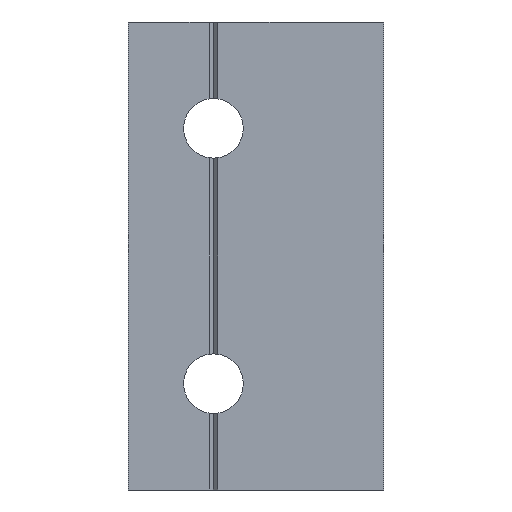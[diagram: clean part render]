
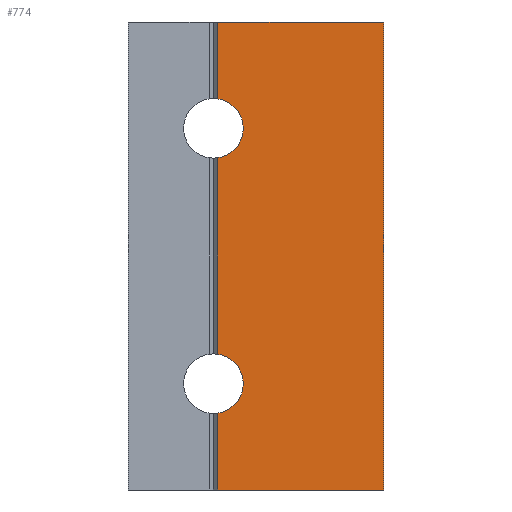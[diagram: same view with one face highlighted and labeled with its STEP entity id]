
A CAD part, left-side view. The second image highlights one B-rep face of the part: STEP entity #774.
In plain terms, the highlighted planar face has unit normal (-1, 0, 0).
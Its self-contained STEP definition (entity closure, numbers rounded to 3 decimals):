
#187 = EDGE_LOOP ( 'NONE', ( #331, #281, #345, #338, #300, #302, #307, #299, #315, #342 ) ) ;
#281 = ORIENTED_EDGE ( 'NONE', *, *, #1011, .F. ) ;
#299 = ORIENTED_EDGE ( 'NONE', *, *, #844, .F. ) ;
#300 = ORIENTED_EDGE ( 'NONE', *, *, #926, .T. ) ;
#302 = ORIENTED_EDGE ( 'NONE', *, *, #972, .F. ) ;
#307 = ORIENTED_EDGE ( 'NONE', *, *, #950, .F. ) ;
#315 = ORIENTED_EDGE ( 'NONE', *, *, #975, .F. ) ;
#321 = VERTEX_POINT ( 'NONE', #1240 ) ;
#331 = ORIENTED_EDGE ( 'NONE', *, *, #1038, .F. ) ;
#338 = ORIENTED_EDGE ( 'NONE', *, *, #994, .F. ) ;
#342 = ORIENTED_EDGE ( 'NONE', *, *, #853, .F. ) ;
#345 = ORIENTED_EDGE ( 'NONE', *, *, #945, .F. ) ;
#393 = CIRCLE ( 'NONE', #1018, 3.5 ) ;
#419 = VECTOR ( 'NONE', #1315, 1000. ) ;
#442 = VECTOR ( 'NONE', #1401, 1000. ) ;
#459 = VECTOR ( 'NONE', #1537, 1000. ) ;
#461 = FACE_OUTER_BOUND ( 'NONE', #187, .T. ) ;
#478 = CIRCLE ( 'NONE', #1029, 3.5 ) ;
#489 = LINE ( 'NONE', #1275, #490 ) ;
#490 = VECTOR ( 'NONE', #1178, 1000. ) ;
#516 = LINE ( 'NONE', #1318, #419 ) ;
#526 = CIRCLE ( 'NONE', #1026, 3.5 ) ;
#532 = LINE ( 'NONE', #1565, #580 ) ;
#549 = VECTOR ( 'NONE', #1042, 1000. ) ;
#559 = LINE ( 'NONE', #1215, #459 ) ;
#566 = LINE ( 'NONE', #1327, #549 ) ;
#573 = CIRCLE ( 'NONE', #822, 3.5 ) ;
#580 = VECTOR ( 'NONE', #1577, 1000. ) ;
#594 = LINE ( 'NONE', #1400, #442 ) ;
#618 = VERTEX_POINT ( 'NONE', #1683 ) ;
#633 = VERTEX_POINT ( 'NONE', #1538 ) ;
#656 = VERTEX_POINT ( 'NONE', #1288 ) ;
#658 = VERTEX_POINT ( 'NONE', #1353 ) ;
#665 = VERTEX_POINT ( 'NONE', #1298 ) ;
#687 = VERTEX_POINT ( 'NONE', #1492 ) ;
#700 = VERTEX_POINT ( 'NONE', #1430 ) ;
#703 = VERTEX_POINT ( 'NONE', #1432 ) ;
#709 = VERTEX_POINT ( 'NONE', #1463 ) ;
#774 = ADVANCED_FACE ( 'NONE', ( #461 ), #1529, .F. ) ;
#822 = AXIS2_PLACEMENT_3D ( 'NONE', #1132, #1615, #1307 ) ;
#844 = EDGE_CURVE ( 'NONE', #658, #709, #594, .T. ) ;
#853 = EDGE_CURVE ( 'NONE', #703, #687, #526, .T. ) ;
#902 = AXIS2_PLACEMENT_3D ( 'NONE', #1082, #1627, #1618 ) ;
#926 = EDGE_CURVE ( 'NONE', #700, #618, #559, .T. ) ;
#945 = EDGE_CURVE ( 'NONE', #656, #633, #393, .T. ) ;
#950 = EDGE_CURVE ( 'NONE', #709, #665, #489, .T. ) ;
#972 = EDGE_CURVE ( 'NONE', #665, #618, #532, .T. ) ;
#975 = EDGE_CURVE ( 'NONE', #687, #658, #478, .T. ) ;
#994 = EDGE_CURVE ( 'NONE', #700, #656, #566, .T. ) ;
#1011 = EDGE_CURVE ( 'NONE', #633, #321, #573, .T. ) ;
#1018 = AXIS2_PLACEMENT_3D ( 'NONE', #1547, #1545, #1574 ) ;
#1026 = AXIS2_PLACEMENT_3D ( 'NONE', #1411, #1412, #1413 ) ;
#1029 = AXIS2_PLACEMENT_3D ( 'NONE', #1539, #1306, #1451 ) ;
#1038 = EDGE_CURVE ( 'NONE', #321, #703, #516, .T. ) ;
#1042 = DIRECTION ( 'NONE',  ( 0., 0., 1. ) ) ;
#1082 = CARTESIAN_POINT ( 'NONE',  ( 0., 0., 27.5 ) ) ;
#1132 = CARTESIAN_POINT ( 'NONE',  ( 0., 20., -15. ) ) ;
#1178 = DIRECTION ( 'NONE',  ( 0., -1., 0. ) ) ;
#1215 = CARTESIAN_POINT ( 'NONE',  ( 0., 0., -27.5 ) ) ;
#1240 = CARTESIAN_POINT ( 'NONE',  ( 0., 19.5, -11.536 ) ) ;
#1275 = CARTESIAN_POINT ( 'NONE',  ( 0., 0., 27.5 ) ) ;
#1288 = CARTESIAN_POINT ( 'NONE',  ( 0., 19.5, -18.464 ) ) ;
#1298 = CARTESIAN_POINT ( 'NONE',  ( 0., 0., 27.5 ) ) ;
#1306 = DIRECTION ( 'NONE',  ( -1., 0., 0. ) ) ;
#1307 = DIRECTION ( 'NONE',  ( 0., -1., 0. ) ) ;
#1315 = DIRECTION ( 'NONE',  ( 0., 0., 1. ) ) ;
#1318 = CARTESIAN_POINT ( 'NONE',  ( 0., 19.5, -27.501 ) ) ;
#1327 = CARTESIAN_POINT ( 'NONE',  ( 0., 19.5, -27.501 ) ) ;
#1353 = CARTESIAN_POINT ( 'NONE',  ( 0., 19.5, 18.464 ) ) ;
#1400 = CARTESIAN_POINT ( 'NONE',  ( 0., 19.5, -27.501 ) ) ;
#1401 = DIRECTION ( 'NONE',  ( 0., 0., 1. ) ) ;
#1411 = CARTESIAN_POINT ( 'NONE',  ( 0., 20., 15. ) ) ;
#1412 = DIRECTION ( 'NONE',  ( -1., 0., 0. ) ) ;
#1413 = DIRECTION ( 'NONE',  ( 0., -1., 0. ) ) ;
#1430 = CARTESIAN_POINT ( 'NONE',  ( 0., 19.5, -27.5 ) ) ;
#1432 = CARTESIAN_POINT ( 'NONE',  ( 0., 19.5, 11.536 ) ) ;
#1451 = DIRECTION ( 'NONE',  ( 0., -1., 0. ) ) ;
#1463 = CARTESIAN_POINT ( 'NONE',  ( 0., 19.5, 27.5 ) ) ;
#1492 = CARTESIAN_POINT ( 'NONE',  ( 0., 16.5, 15. ) ) ;
#1529 = PLANE ( 'NONE',  #902 ) ;
#1537 = DIRECTION ( 'NONE',  ( 0., -1., 0. ) ) ;
#1538 = CARTESIAN_POINT ( 'NONE',  ( 0., 16.5, -15. ) ) ;
#1539 = CARTESIAN_POINT ( 'NONE',  ( 0., 20., 15. ) ) ;
#1545 = DIRECTION ( 'NONE',  ( -1., 0., 0. ) ) ;
#1547 = CARTESIAN_POINT ( 'NONE',  ( 0., 20., -15. ) ) ;
#1565 = CARTESIAN_POINT ( 'NONE',  ( 0., 0., 27.5 ) ) ;
#1574 = DIRECTION ( 'NONE',  ( 0., -1., 0. ) ) ;
#1577 = DIRECTION ( 'NONE',  ( 0., 0., -1. ) ) ;
#1615 = DIRECTION ( 'NONE',  ( -1., 0., 0. ) ) ;
#1618 = DIRECTION ( 'NONE',  ( 0., 1., 0. ) ) ;
#1627 = DIRECTION ( 'NONE',  ( 1., 0., 0. ) ) ;
#1683 = CARTESIAN_POINT ( 'NONE',  ( 0., 0., -27.5 ) ) ;
